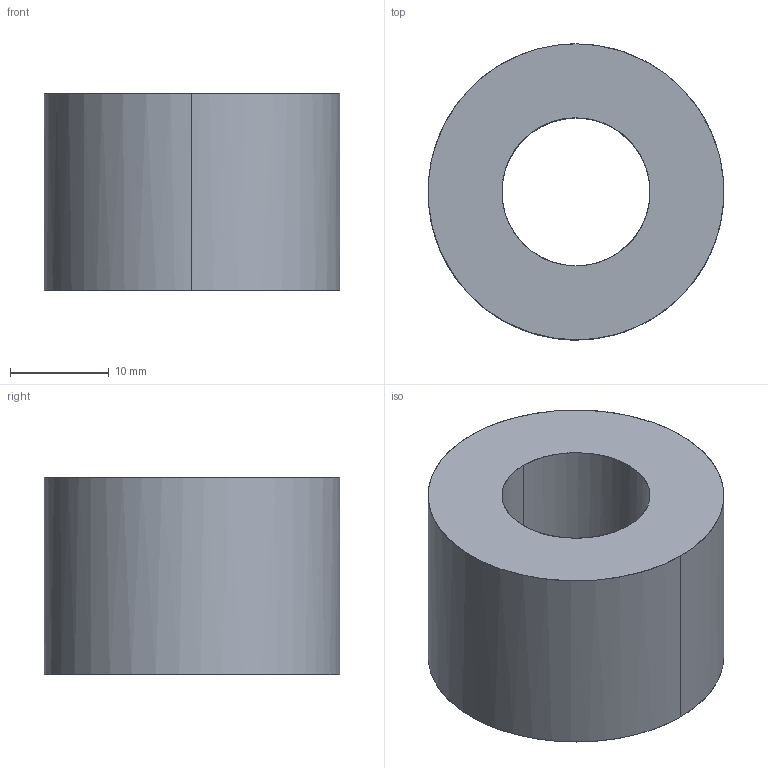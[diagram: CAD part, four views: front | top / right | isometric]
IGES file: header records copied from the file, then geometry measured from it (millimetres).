
Global section: file name: E:\UnigraphicsGraphicData\MISUMI_PRESS-PARTS\IGES\3d_swg30-20_00750_r00.igs; native system: NX V5.0; preprocessor: UGS NX IGES V5.0; author: MISUMI; date: 20110105.163256; units: millimetre
Bounding box: 30 x 30 x 20 mm (x, y, z)
Surface area: 3886.8 mm2 (no closed solid volume)
Topology: 0 solids, 0 shells, 6 faces, 64 edges, 64 vertices
Faces by surface type: bspline 6
